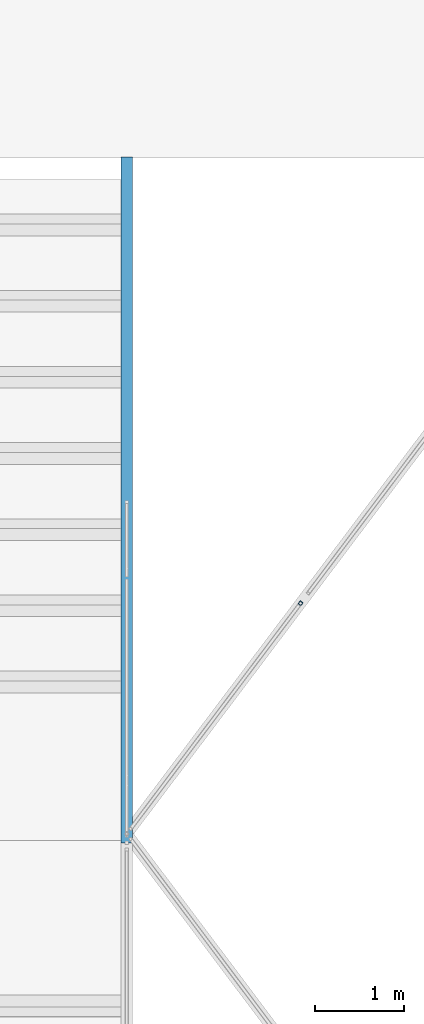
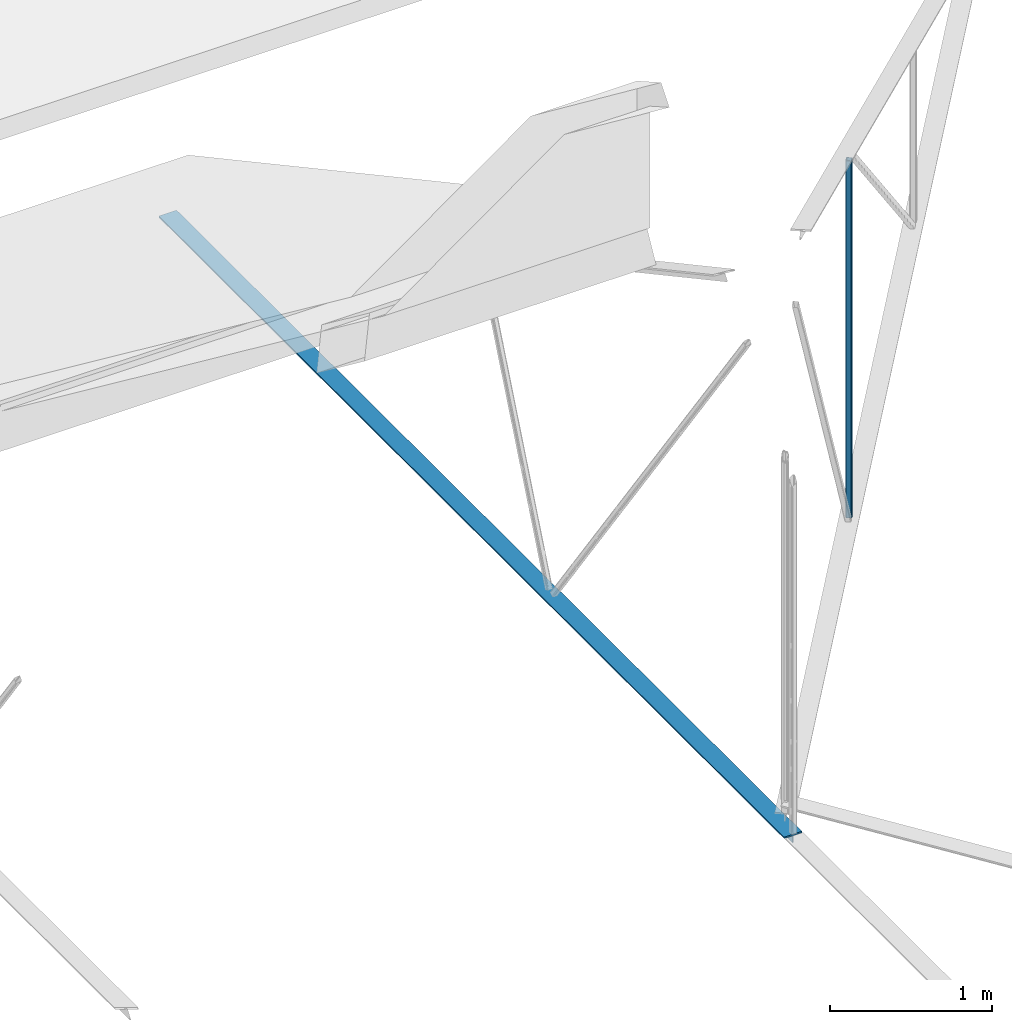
# One storey, part 11 of 15: 1 beam, 1 member, 2 elements without a shape of their own.
"""IFC4 building model written with IfcOpenShell, lengths in metres."""

from ifc_helpers import new_model, entity, si_unit, converted_unit, derived_unit, direction, frame, origin, place, context, subcontext, project, spatial, line, arc, indexed_curve, outline, extrude, source, transform, mapped, material, type_object, type_shapes, element, aggregate, save


model = new_model("IFC4")

# Units and contexts
model_context = context("Model", 3, precision=1e-05, world=origin(), true_north=direction((6.123031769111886e-17, 1.0)))
body_context = subcontext(model_context, "Body", "Model", "MODEL_VIEW")
ifc_project = project(units=[si_unit("LENGTHUNIT", "METRE"), si_unit("AREAUNIT", "SQUARE_METRE"), si_unit("VOLUMEUNIT", "CUBIC_METRE"), converted_unit("PLANEANGLEUNIT", "DEGREE", entity("IfcRatioMeasure", 0.017453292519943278), si_unit("PLANEANGLEUNIT", "RADIAN"), dimensions=[0, 0, 0, 0, 0, 0, 0]), si_unit("MASSUNIT", "GRAM", prefix="KILO"), derived_unit("MASSDENSITYUNIT", [(si_unit("MASSUNIT", "GRAM", prefix="KILO"), 1), (si_unit("LENGTHUNIT", "METRE"), -3)]), derived_unit("MOMENTOFINERTIAUNIT", [(si_unit("LENGTHUNIT", "METRE"), 4)]), si_unit("TIMEUNIT", "SECOND"), si_unit("FREQUENCYUNIT", "HERTZ"), si_unit("THERMODYNAMICTEMPERATUREUNIT", "DEGREE_CELSIUS"), derived_unit("THERMALTRANSMITTANCEUNIT", [(si_unit("MASSUNIT", "GRAM", prefix="KILO"), 1), (si_unit("THERMODYNAMICTEMPERATUREUNIT", "KELVIN"), -1), (si_unit("TIMEUNIT", "SECOND"), -3)]), derived_unit("VOLUMETRICFLOWRATEUNIT", [(si_unit("LENGTHUNIT", "METRE"), 3), (si_unit("TIMEUNIT", "SECOND"), -1)]), derived_unit("MASSFLOWRATEUNIT", [(si_unit("MASSUNIT", "GRAM", prefix="KILO"), 1), (si_unit("TIMEUNIT", "SECOND"), -1)]), derived_unit("ROTATIONALFREQUENCYUNIT", [(si_unit("TIMEUNIT", "SECOND"), -1)]), si_unit("ELECTRICCURRENTUNIT", "AMPERE"), si_unit("ELECTRICVOLTAGEUNIT", "VOLT"), si_unit("POWERUNIT", "WATT"), si_unit("FORCEUNIT", "NEWTON", prefix="KILO"), si_unit("ILLUMINANCEUNIT", "LUX"), si_unit("LUMINOUSFLUXUNIT", "LUMEN"), si_unit("LUMINOUSINTENSITYUNIT", "CANDELA"), derived_unit("USERDEFINED", [(si_unit("MASSUNIT", "GRAM", prefix="KILO"), -1), (si_unit("LENGTHUNIT", "METRE"), -2), (si_unit("TIMEUNIT", "SECOND"), 3), (si_unit("LUMINOUSFLUXUNIT", "LUMEN"), 1)]), derived_unit("SOUNDPOWERUNIT", [(si_unit("MASSUNIT", "GRAM", prefix="KILO"), 1), (si_unit("LENGTHUNIT", "METRE"), 2), (si_unit("TIMEUNIT", "SECOND"), -3)]), derived_unit("SOUNDPRESSUREUNIT", [(si_unit("MASSUNIT", "GRAM", prefix="KILO"), 1), (si_unit("LENGTHUNIT", "METRE"), -1), (si_unit("TIMEUNIT", "SECOND"), -2)]), derived_unit("LINEARVELOCITYUNIT", [(si_unit("LENGTHUNIT", "METRE"), 1), (si_unit("TIMEUNIT", "SECOND"), -1)]), si_unit("PRESSUREUNIT", "PASCAL"), derived_unit("USERDEFINED", [(si_unit("LENGTHUNIT", "METRE"), -2), (si_unit("MASSUNIT", "GRAM", prefix="KILO"), 1), (si_unit("TIMEUNIT", "SECOND"), -2)]), derived_unit("LINEARFORCEUNIT", [(si_unit("MASSUNIT", "GRAM", prefix="KILO"), 1), (si_unit("LENGTHUNIT", "METRE"), 1), (si_unit("TIMEUNIT", "SECOND"), -2), (si_unit("LENGTHUNIT", "METRE"), -1)]), derived_unit("PLANARFORCEUNIT", [(si_unit("MASSUNIT", "GRAM", prefix="KILO"), 1), (si_unit("LENGTHUNIT", "METRE"), 1), (si_unit("TIMEUNIT", "SECOND"), -2), (si_unit("LENGTHUNIT", "METRE"), -2)])], contexts=[model_context])

# Site, building, storey
site_placement = place(None, origin())
site = spatial("IfcSite", under=ifc_project, at=site_placement, Name="Superficie", CompositionType="ELEMENT")
building_placement = place(site_placement, origin())
building = spatial("IfcBuilding", under=site, at=building_placement, CompositionType="ELEMENT")
storey_placement = place(building_placement, frame((0.0, 0.0, 7.25)))
storey = spatial("IfcBuildingStorey", under=building, at=storey_placement, Name="Nivel 2", CompositionType="ELEMENT", Elevation=7.25)

# Assembly, beam
assembly_1_placement = place(storey_placement, origin())
assembly_1 = element("IfcElementAssembly", 1, at=assembly_1_placement, inside=storey, Name="Cercha 3:Cercha 3", ObjectType="Cercha 3:Cercha 3", AssemblyPlace="NOTDEFINED", PredefinedType="TRUSS")
ifc_material = material(Name="Metal - Acero - 345 MPa", Category="Metal")
beam_type = type_object("IfcBeamType", Name="MT-T estructural:MT65X14.05", PredefinedType="BEAM", material=ifc_material)
shared_shape_1 = source(origin(), body_context, "Body", "SweptSolid", [
    extrude(outline(indexed_curve([(-0.004000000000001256, -0.04376000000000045), (0.003999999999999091, -0.04376000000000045), (0.003999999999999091, 0.005740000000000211), (0.004995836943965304, 0.008144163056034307), (0.007399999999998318, 0.009140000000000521), (0.06349999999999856, 0.009140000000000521), (0.06349999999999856, 0.019740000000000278), (-0.06350000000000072, 0.019740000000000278), (-0.06350000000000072, 0.009140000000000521), (-0.0074000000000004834, 0.009140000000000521), (-0.00499583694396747, 0.008144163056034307), (-0.004000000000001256, 0.005740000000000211)], segments=[line(1, 2, 3), arc(3, 4, 5), line(5, 6, 7, 8, 9, 10), arc(10, 11, 12), line(12, 1)], self_intersect=False)), frame((14.597348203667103, -1.9592410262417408, 7.370715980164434), z_axis=(0.0, 1.0, 0.0), x_axis=(-1.0, 0.0, 0.0)), (0.0, 0.0, 1.0), 7.744000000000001),
])
type_shapes(beam_type, [shared_shape_1])
beam_placement = place(assembly_1_placement, frame((0.0, 0.0, -7.25)))
beam = element("IfcBeam", 2, at=beam_placement, type_object=beam_type, material=ifc_material, Name="MT-T estructural:MT65X14.05", ObjectType="MT-T estructural:MT65X14.05", PredefinedType="BEAM", context=body_context, shape_type="MappedRepresentation", body=[
    mapped(shared_shape_1, transform((0.0, 0.0, 0.0), scale=1.0)),
])
aggregate(assembly_1, [beam])

# Assembly, member
assembly_2_placement = place(storey_placement, origin())
assembly_2 = element("IfcElementAssembly", 3, at=assembly_2_placement, inside=storey, Name="Cercha esquina:Cercha esquina", ObjectType="Cercha esquina:Cercha esquina", AssemblyPlace="NOTDEFINED", PredefinedType="TRUSS")
member_type = type_object("IfcMemberType", Name="HSS-Sección estructural hueca:HSS41.3X41.3X4.8", PredefinedType="BRACE", material=ifc_material)
shared_shape_2 = source(origin(), body_context, "Body", "SweptSolid", [
    extrude(outline(indexed_curve([(-0.011809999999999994, -0.020650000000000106), (0.011809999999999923, -0.020650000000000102), (0.01806082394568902, -0.01806082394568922), (0.020649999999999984, -0.011810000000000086), (0.020649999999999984, 0.011810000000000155), (0.018060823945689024, 0.01806082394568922), (0.011809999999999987, 0.0206500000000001), (-0.011809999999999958, 0.0206500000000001), (-0.01806082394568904, 0.018060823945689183), (-0.020649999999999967, 0.011810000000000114), (-0.020649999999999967, -0.011810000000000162), (-0.018060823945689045, -0.018060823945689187)], segments=[line(1, 2), arc(2, 3, 4), line(4, 5), arc(5, 6, 7), line(7, 8), arc(8, 9, 10), line(10, 11), arc(11, 12, 1)], self_intersect=False), holes=[indexed_curve([(-0.01623000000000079, 0.01180999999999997), (-0.014935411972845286, 0.014935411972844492), (-0.011810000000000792, 0.016229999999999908), (0.011809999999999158, 0.016229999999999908), (0.014935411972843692, 0.014935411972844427), (0.01622999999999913, 0.011809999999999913), (0.01622999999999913, -0.01180999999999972), (0.014935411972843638, -0.014935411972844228), (0.01180999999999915, -0.016229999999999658), (-0.011810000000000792, -0.016229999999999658), (-0.014935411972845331, -0.014935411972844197), (-0.01623000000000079, -0.011809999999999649)], segments=[arc(1, 2, 3), line(3, 4), arc(4, 5, 6), line(6, 7), arc(7, 8, 9), line(9, 10), arc(10, 11, 12), line(12, 1)], self_intersect=False)]), frame((-1.3554999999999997, 0.0, 0.0), z_axis=(1.0, 0.0, 0.0), x_axis=(0.0, 0.0, -1.0)), (0.0, 0.0, 1.0), 2.699),
])
type_shapes(member_type, [shared_shape_2])
member_placement = place(assembly_2_placement, frame((16.560498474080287, 0.7469616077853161, 1.5712818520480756), z_axis=(-0.6018150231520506, -0.798635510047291, 0.0), x_axis=(0.0, 0.0, 1.0)))
member = element("IfcMember", 4, at=member_placement, type_object=member_type, material=ifc_material, Name="HSS-Sección estructural hueca:HSS41.3X41.3X4.8", ObjectType="HSS-Sección estructural hueca:HSS41.3X41.3X4.8", PredefinedType="BRACE", context=body_context, shape_type="MappedRepresentation", body=[
    mapped(shared_shape_2, transform((0.0, 0.0, 0.0), scale=1.0)),
])
aggregate(assembly_2, [member])

save(model, "model.ifc")
